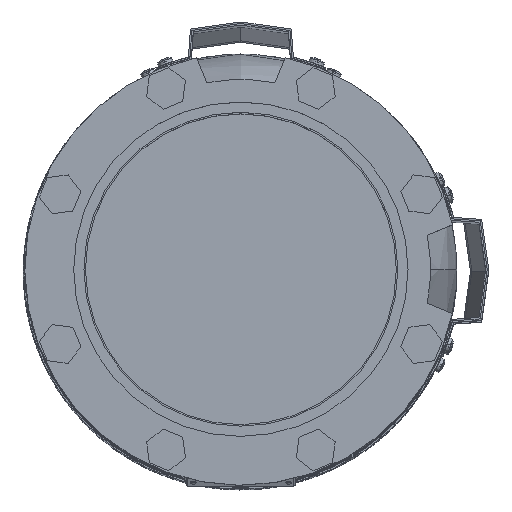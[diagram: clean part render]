
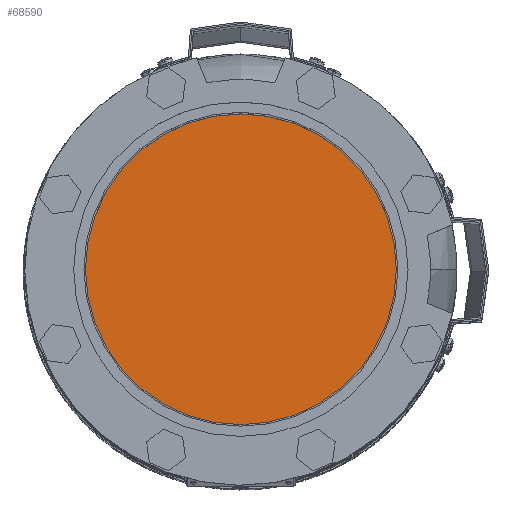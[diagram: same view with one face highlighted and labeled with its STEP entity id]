
A CAD part, top view. The second image highlights one B-rep face of the part: STEP entity #68590.
In plain terms, the highlighted planar face has unit normal (0, 0, 1) as drawn and (0, 1, 0) by its records, which use the part's own axes.
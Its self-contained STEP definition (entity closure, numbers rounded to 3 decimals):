
#657=CIRCLE('',#72284,102.5);
#658=CIRCLE('',#72285,102.5);
#16726=ORIENTED_EDGE('',*,*,#37518,.F.);
#16727=ORIENTED_EDGE('',*,*,#37519,.T.);
#37518=EDGE_CURVE('',#47914,#47915,#657,.T.);
#37519=EDGE_CURVE('',#47914,#47915,#658,.T.);
#47914=VERTEX_POINT('',#98989);
#47915=VERTEX_POINT('',#98990);
#55618=EDGE_LOOP('',(#16726,#16727));
#60569=FACE_BOUND('',#55618,.T.);
#65519=PLANE('',#72283);
#68590=ADVANCED_FACE('',(#60569),#65519,.T.);
#72283=AXIS2_PLACEMENT_3D('',#98987,#79019,#79020);
#72284=AXIS2_PLACEMENT_3D('',#98988,#79021,#79022);
#72285=AXIS2_PLACEMENT_3D('',#98991,#79023,#79024);
#79019=DIRECTION('',(0.,1.,0.));
#79020=DIRECTION('',(-1.,0.,0.));
#79021=DIRECTION('',(0.,-1.,0.));
#79022=DIRECTION('',(-1.,0.,0.));
#79023=DIRECTION('',(0.,1.,0.));
#79024=DIRECTION('',(-1.,0.,0.));
#98987=CARTESIAN_POINT('',(-109.56,216.5,0.));
#98988=CARTESIAN_POINT('',(0.,216.5,0.));
#98989=CARTESIAN_POINT('',(-102.5,216.5,0.));
#98990=CARTESIAN_POINT('',(102.5,216.5,0.));
#98991=CARTESIAN_POINT('',(0.,216.5,0.));
